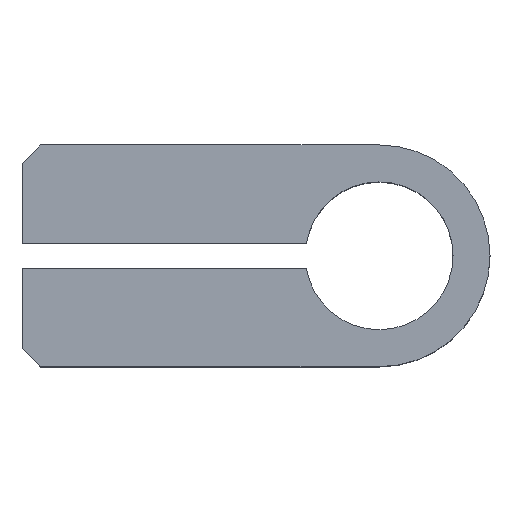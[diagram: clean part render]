
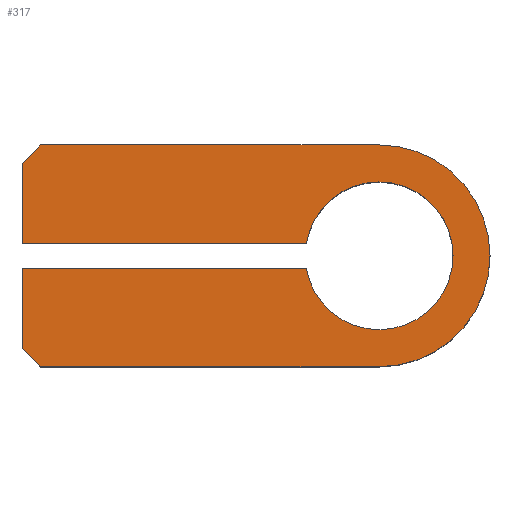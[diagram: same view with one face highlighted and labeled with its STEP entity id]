
A CAD part, top view. The second image highlights one B-rep face of the part: STEP entity #317.
In plain terms, the highlighted planar face has unit normal (0, 0, 1).
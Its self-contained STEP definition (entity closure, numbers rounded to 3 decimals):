
#10 = ORIENTED_EDGE ( 'NONE', *, *, #510, .T. ) ;
#15 = DIRECTION ( 'NONE',  ( -0.707, -0.707, 0. ) ) ;
#22 = DIRECTION ( 'NONE',  ( 0.707, -0.707, 0. ) ) ;
#38 = CARTESIAN_POINT ( 'NONE',  ( 0., -9., 9. ) ) ;
#58 = DIRECTION ( 'NONE',  ( 1., 0., 0. ) ) ;
#79 = DIRECTION ( 'NONE',  ( 1., 0., 0. ) ) ;
#83 = DIRECTION ( 'NONE',  ( 0., -1., 0. ) ) ;
#87 = ORIENTED_EDGE ( 'NONE', *, *, #471, .T. ) ;
#88 = CARTESIAN_POINT ( 'NONE',  ( 0., 0., 9. ) ) ;
#90 = DIRECTION ( 'NONE',  ( 1., 0., 0. ) ) ;
#98 = ORIENTED_EDGE ( 'NONE', *, *, #861, .F. ) ;
#107 = CARTESIAN_POINT ( 'NONE',  ( 0., 0., 9. ) ) ;
#118 = EDGE_CURVE ( 'NONE', #293, #841, #438, .T. ) ;
#155 = CARTESIAN_POINT ( 'NONE',  ( -29., 9., 9. ) ) ;
#162 = VERTEX_POINT ( 'NONE', #638 ) ;
#164 = AXIS2_PLACEMENT_3D ( 'NONE', #344, #596, #58 ) ;
#193 = VECTOR ( 'NONE', #22, 1000. ) ;
#196 = VECTOR ( 'NONE', #678, 1000. ) ;
#212 = LINE ( 'NONE', #913, #196 ) ;
#221 = CARTESIAN_POINT ( 'NONE',  ( -29., -1., 9. ) ) ;
#226 = CARTESIAN_POINT ( 'NONE',  ( -29., -9., 9. ) ) ;
#239 = CARTESIAN_POINT ( 'NONE',  ( -29., 9., 9. ) ) ;
#253 = CARTESIAN_POINT ( 'NONE',  ( -5.916, 1., 9. ) ) ;
#256 = LINE ( 'NONE', #239, #310 ) ;
#263 = DIRECTION ( 'NONE',  ( 1., 0., 0. ) ) ;
#266 = DIRECTION ( 'NONE',  ( 0., 0., 1. ) ) ;
#280 = CARTESIAN_POINT ( 'NONE',  ( -29., -7.5, 9. ) ) ;
#293 = VERTEX_POINT ( 'NONE', #38 ) ;
#295 = DIRECTION ( 'NONE',  ( -1., 0., 0. ) ) ;
#309 = CARTESIAN_POINT ( 'NONE',  ( -29., 1., 9. ) ) ;
#310 = VECTOR ( 'NONE', #703, 1000. ) ;
#317 = ADVANCED_FACE ( 'NONE', ( #768 ), #882, .T. ) ;
#320 = CIRCLE ( 'NONE', #468, 6. ) ;
#344 = CARTESIAN_POINT ( 'NONE',  ( 0., 0., 9. ) ) ;
#352 = VERTEX_POINT ( 'NONE', #253 ) ;
#355 = CARTESIAN_POINT ( 'NONE',  ( -5.916, -1., 9. ) ) ;
#365 = ORIENTED_EDGE ( 'NONE', *, *, #671, .T. ) ;
#389 = LINE ( 'NONE', #155, #420 ) ;
#397 = LINE ( 'NONE', #943, #714 ) ;
#420 = VECTOR ( 'NONE', #83, 1000. ) ;
#423 = CARTESIAN_POINT ( 'NONE',  ( -27.5, 9., 9. ) ) ;
#429 = VERTEX_POINT ( 'NONE', #423 ) ;
#438 = CIRCLE ( 'NONE', #447, 9. ) ;
#441 = CARTESIAN_POINT ( 'NONE',  ( 0., 9., 9. ) ) ;
#447 = AXIS2_PLACEMENT_3D ( 'NONE', #107, #266, #263 ) ;
#468 = AXIS2_PLACEMENT_3D ( 'NONE', #88, #771, #79 ) ;
#469 = ORIENTED_EDGE ( 'NONE', *, *, #118, .T. ) ;
#471 = EDGE_CURVE ( 'NONE', #429, #705, #397, .T. ) ;
#481 = EDGE_CURVE ( 'NONE', #614, #352, #320, .T. ) ;
#505 = EDGE_LOOP ( 'NONE', ( #10, #760, #759, #469, #365, #87, #524, #924, #872, #98 ) ) ;
#510 = EDGE_CURVE ( 'NONE', #520, #580, #212, .T. ) ;
#520 = VERTEX_POINT ( 'NONE', #221 ) ;
#524 = ORIENTED_EDGE ( 'NONE', *, *, #945, .T. ) ;
#541 = CARTESIAN_POINT ( 'NONE',  ( -29., -1., 9. ) ) ;
#544 = CARTESIAN_POINT ( 'NONE',  ( -29., 7.5, 9. ) ) ;
#580 = VERTEX_POINT ( 'NONE', #280 ) ;
#596 = DIRECTION ( 'NONE',  ( 0., 0., 1. ) ) ;
#614 = VERTEX_POINT ( 'NONE', #355 ) ;
#638 = CARTESIAN_POINT ( 'NONE',  ( -27.5, -9., 9. ) ) ;
#646 = EDGE_CURVE ( 'NONE', #580, #162, #726, .T. ) ;
#671 = EDGE_CURVE ( 'NONE', #841, #429, #256, .T. ) ;
#674 = LINE ( 'NONE', #541, #786 ) ;
#678 = DIRECTION ( 'NONE',  ( 0., -1., 0. ) ) ;
#697 = VECTOR ( 'NONE', #767, 1000. ) ;
#703 = DIRECTION ( 'NONE',  ( -1., 0., 0. ) ) ;
#705 = VERTEX_POINT ( 'NONE', #544 ) ;
#706 = VERTEX_POINT ( 'NONE', #309 ) ;
#714 = VECTOR ( 'NONE', #15, 1000. ) ;
#726 = LINE ( 'NONE', #909, #193 ) ;
#736 = LINE ( 'NONE', #226, #697 ) ;
#749 = VECTOR ( 'NONE', #295, 1000. ) ;
#759 = ORIENTED_EDGE ( 'NONE', *, *, #834, .T. ) ;
#760 = ORIENTED_EDGE ( 'NONE', *, *, #646, .T. ) ;
#767 = DIRECTION ( 'NONE',  ( 1., 0., 0. ) ) ;
#768 = FACE_OUTER_BOUND ( 'NONE', #505, .T. ) ;
#771 = DIRECTION ( 'NONE',  ( 0., 0., 1. ) ) ;
#775 = LINE ( 'NONE', #835, #749 ) ;
#786 = VECTOR ( 'NONE', #90, 1000. ) ;
#790 = EDGE_CURVE ( 'NONE', #352, #706, #775, .T. ) ;
#834 = EDGE_CURVE ( 'NONE', #162, #293, #736, .T. ) ;
#835 = CARTESIAN_POINT ( 'NONE',  ( -29., 1., 9. ) ) ;
#841 = VERTEX_POINT ( 'NONE', #441 ) ;
#861 = EDGE_CURVE ( 'NONE', #520, #614, #674, .T. ) ;
#872 = ORIENTED_EDGE ( 'NONE', *, *, #481, .F. ) ;
#882 = PLANE ( 'NONE',  #164 ) ;
#909 = CARTESIAN_POINT ( 'NONE',  ( -18.25, -18.25, 9. ) ) ;
#913 = CARTESIAN_POINT ( 'NONE',  ( -29., 9., 9. ) ) ;
#924 = ORIENTED_EDGE ( 'NONE', *, *, #790, .F. ) ;
#943 = CARTESIAN_POINT ( 'NONE',  ( -18.25, 18.25, 9. ) ) ;
#945 = EDGE_CURVE ( 'NONE', #705, #706, #389, .T. ) ;
